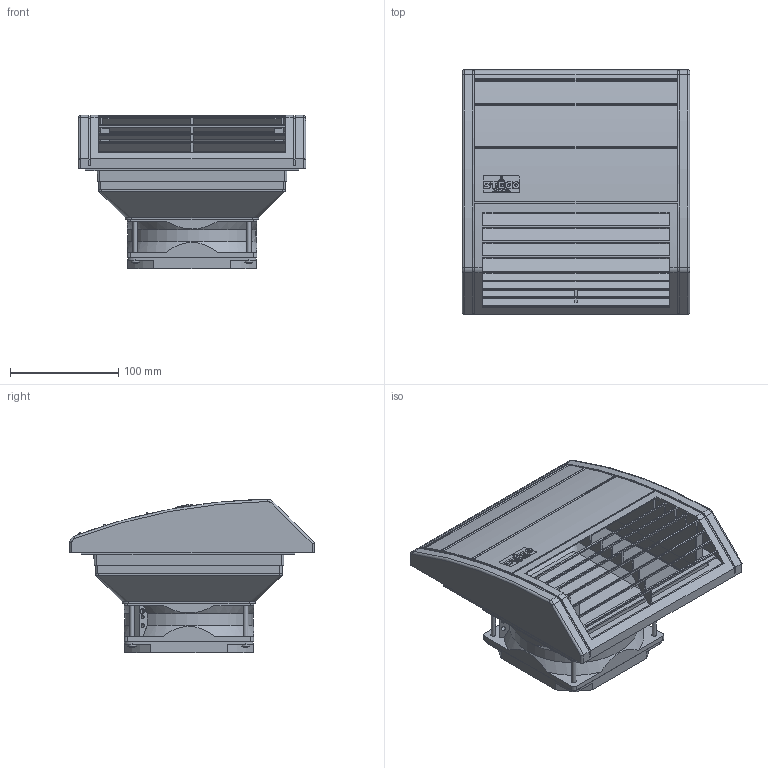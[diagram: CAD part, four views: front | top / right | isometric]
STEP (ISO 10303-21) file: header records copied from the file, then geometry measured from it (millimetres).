
FILE_DESCRIPTION (( 'STEP AP214' ), '1' );
FILE_NAME ('2014_09_FF018_176mm_3D_001.STEP', '2014-09-03T12:34:20', ( '' ), ( '' ), 'SwSTEP 2.0', 'SolidWorks 2014', '' );
FILE_SCHEMA (( 'AUTOMOTIVE_DESIGN' ));
Length unit declared in the file: millimetre
Products named in the file (1): 2014_09_FF018_176mm_3D_001
Bounding box: 210 x 225.7 x 141.5 mm (x, y, z)
Surface area: 365215.3 mm2 (no closed solid volume)
Topology: 0 solids, 21 shells, 1164 faces, 3520 edges, 2268 vertices
Faces by surface type: plane 668, cone 330, cylinder 120, bspline 36, torus 6, sphere 4
Full cylindrical faces by diameter (mm): 3.5 x2, 4 x6, 4.572 x8, 7.5 x4, 115.062 x1
Entity records: 57850 total; most frequent: CARTESIAN_POINT 15092, ORIENTED_EDGE 6071, DIRECTION 5784, EDGE_CURVE 3488, VERTEX_POINT 2261, AXIS2_PLACEMENT_3D 1955, VECTOR 1874, LINE 1874
